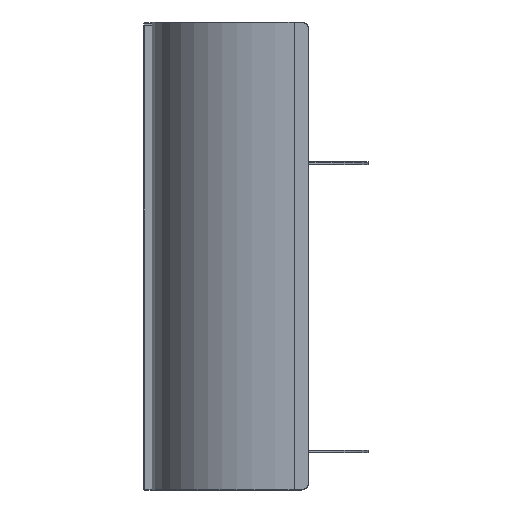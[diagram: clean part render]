
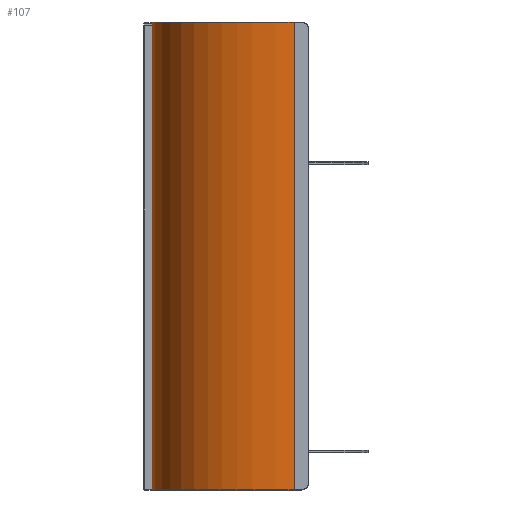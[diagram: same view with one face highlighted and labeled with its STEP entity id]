
A CAD part, left-side view. The second image highlights one B-rep face of the part: STEP entity #107.
In plain terms, the highlighted free-form (B-spline) face has degree [3, 1] with [4, 2] control points.
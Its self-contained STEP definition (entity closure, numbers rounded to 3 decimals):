
#12=B_SPLINE_SURFACE_WITH_KNOTS('',3,1,((#5786,#5787),(#5788,#5789),(#5790,
#5791),(#5792,#5793)),.UNSPECIFIED.,.F.,.F.,.F.,(4,4),(2,2),(-168.102,
232.5),(0.,650.),.UNSPECIFIED.);
#107=ADVANCED_FACE('',(#234),#12,.T.);
#234=FACE_OUTER_BOUND('',#365,.T.);
#365=EDGE_LOOP('',(#753,#754,#755,#756));
#753=ORIENTED_EDGE('',*,*,#1153,.F.);
#754=ORIENTED_EDGE('',*,*,#1157,.T.);
#755=ORIENTED_EDGE('',*,*,#1138,.T.);
#756=ORIENTED_EDGE('',*,*,#1156,.F.);
#1138=EDGE_CURVE('',#1656,#1658,#1327,.T.);
#1153=EDGE_CURVE('',#1667,#1668,#1333,.T.);
#1156=EDGE_CURVE('',#1668,#1658,#1334,.T.);
#1157=EDGE_CURVE('',#1667,#1656,#1335,.T.);
#1327=B_SPLINE_CURVE_WITH_KNOTS('',1,(#7679,#7680),.UNSPECIFIED.,.F.,.F.,
(2,2),(0.5,649.5),.UNSPECIFIED.);
#1333=B_SPLINE_CURVE_WITH_KNOTS('',1,(#7717,#7718),.UNSPECIFIED.,.F.,.F.,
(2,2),(0.5,649.5),.UNSPECIFIED.);
#1334=B_SPLINE_CURVE_WITH_KNOTS('',3,(#7723,#7724,#7725,#7726),
 .UNSPECIFIED.,.F.,.F.,(4,4),(0.,320.249),.UNSPECIFIED.);
#1335=B_SPLINE_CURVE_WITH_KNOTS('',3,(#7727,#7728,#7729,#7730),
 .UNSPECIFIED.,.F.,.F.,(4,4),(0.,320.249),.UNSPECIFIED.);
#1656=VERTEX_POINT('',#7606);
#1658=VERTEX_POINT('',#7608);
#1667=VERTEX_POINT('',#7617);
#1668=VERTEX_POINT('',#7618);
#5786=CARTESIAN_POINT('',(-1362.5,177.,500.));
#5787=CARTESIAN_POINT('',(-1362.5,177.,1150.));
#5788=CARTESIAN_POINT('',(-1546.265,177.,500.));
#5789=CARTESIAN_POINT('',(-1546.265,177.,1150.));
#5790=CARTESIAN_POINT('',(-1562.5,44.,500.));
#5791=CARTESIAN_POINT('',(-1562.5,44.,1150.));
#5792=CARTESIAN_POINT('',(-1562.5,-20.,500.));
#5793=CARTESIAN_POINT('',(-1562.5,-20.,1150.));
#7606=CARTESIAN_POINT('',(-1562.5,-20.,500.5));
#7608=CARTESIAN_POINT('',(-1562.5,-20.,1149.5));
#7617=CARTESIAN_POINT('',(-1362.5,177.,500.5));
#7618=CARTESIAN_POINT('',(-1362.5,177.,1149.5));
#7679=CARTESIAN_POINT('',(-1562.5,-20.,500.5));
#7680=CARTESIAN_POINT('',(-1562.5,-20.,1149.5));
#7717=CARTESIAN_POINT('',(-1362.5,177.,500.5));
#7718=CARTESIAN_POINT('',(-1362.5,177.,1149.5));
#7723=CARTESIAN_POINT('',(-1362.5,177.,1149.5));
#7724=CARTESIAN_POINT('',(-1546.265,177.,1149.5));
#7725=CARTESIAN_POINT('',(-1562.5,44.,1149.5));
#7726=CARTESIAN_POINT('',(-1562.5,-20.,1149.5));
#7727=CARTESIAN_POINT('',(-1362.5,177.,500.5));
#7728=CARTESIAN_POINT('',(-1546.265,177.,500.5));
#7729=CARTESIAN_POINT('',(-1562.5,44.,500.5));
#7730=CARTESIAN_POINT('',(-1562.5,-20.,500.5));
